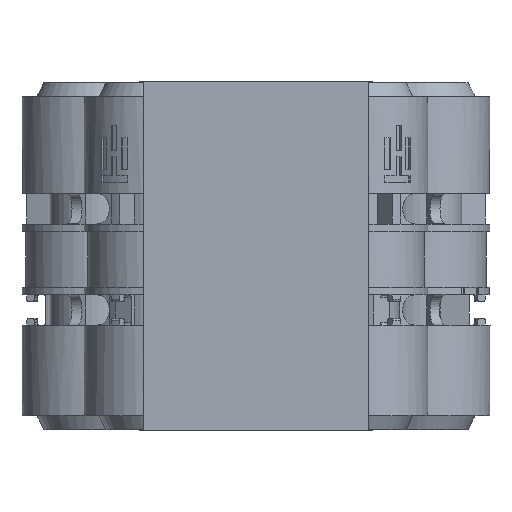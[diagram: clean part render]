
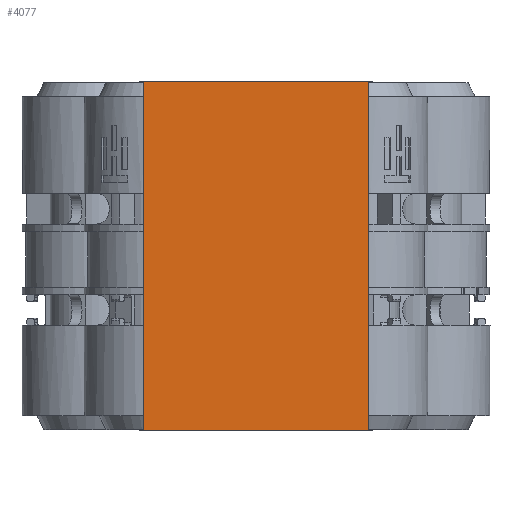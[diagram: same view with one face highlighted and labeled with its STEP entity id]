
A CAD part, front view. The second image highlights one B-rep face of the part: STEP entity #4077.
In plain terms, the highlighted planar face has unit normal (0, -1, 0) as drawn and (0, 0, -1) by its records, which use the part's own axes.
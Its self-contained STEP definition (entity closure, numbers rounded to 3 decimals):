
#203=PLANE('',#4457);
#428=FACE_OUTER_BOUND('',#649,.T.);
#649=EDGE_LOOP('',(#3679,#3680,#3681,#3682));
#1052=LINE('',#6722,#1497);
#1055=LINE('',#6728,#1500);
#1057=LINE('',#6731,#1502);
#1058=LINE('',#6732,#1503);
#1497=VECTOR('',#5522,10.);
#1500=VECTOR('',#5527,10.);
#1502=VECTOR('',#5531,10.);
#1503=VECTOR('',#5532,10.);
#2040=VERTEX_POINT('',#6719);
#2041=VERTEX_POINT('',#6721);
#2042=VERTEX_POINT('',#6725);
#2043=VERTEX_POINT('',#6727);
#2598=EDGE_CURVE('',#2041,#2040,#1052,.T.);
#2601=EDGE_CURVE('',#2043,#2042,#1055,.T.);
#2603=EDGE_CURVE('',#2040,#2043,#1057,.T.);
#2604=EDGE_CURVE('',#2042,#2041,#1058,.T.);
#3679=ORIENTED_EDGE('',*,*,#2603,.T.);
#3680=ORIENTED_EDGE('',*,*,#2601,.T.);
#3681=ORIENTED_EDGE('',*,*,#2604,.T.);
#3682=ORIENTED_EDGE('',*,*,#2598,.T.);
#4077=ADVANCED_FACE('',(#428),#203,.T.);
#4457=AXIS2_PLACEMENT_3D('',#6730,#5529,#5530);
#5522=DIRECTION('',(0.,-1.,0.));
#5527=DIRECTION('',(0.,1.,0.));
#5529=DIRECTION('center_axis',(0.,0.,-1.));
#5530=DIRECTION('ref_axis',(-1.,0.,0.));
#5531=DIRECTION('',(-1.,0.,0.));
#5532=DIRECTION('',(1.,0.,0.));
#6719=CARTESIAN_POINT('',(7.5,0.,-17.));
#6721=CARTESIAN_POINT('',(7.5,23.2,-17.));
#6722=CARTESIAN_POINT('',(7.5,0.,-17.));
#6725=CARTESIAN_POINT('',(-7.5,23.2,-17.));
#6727=CARTESIAN_POINT('',(-7.5,0.,-17.));
#6728=CARTESIAN_POINT('',(-7.5,23.2,-17.));
#6730=CARTESIAN_POINT('Origin',(0.,11.6,-17.));
#6731=CARTESIAN_POINT('',(-7.5,0.,-17.));
#6732=CARTESIAN_POINT('',(7.5,23.2,-17.));
